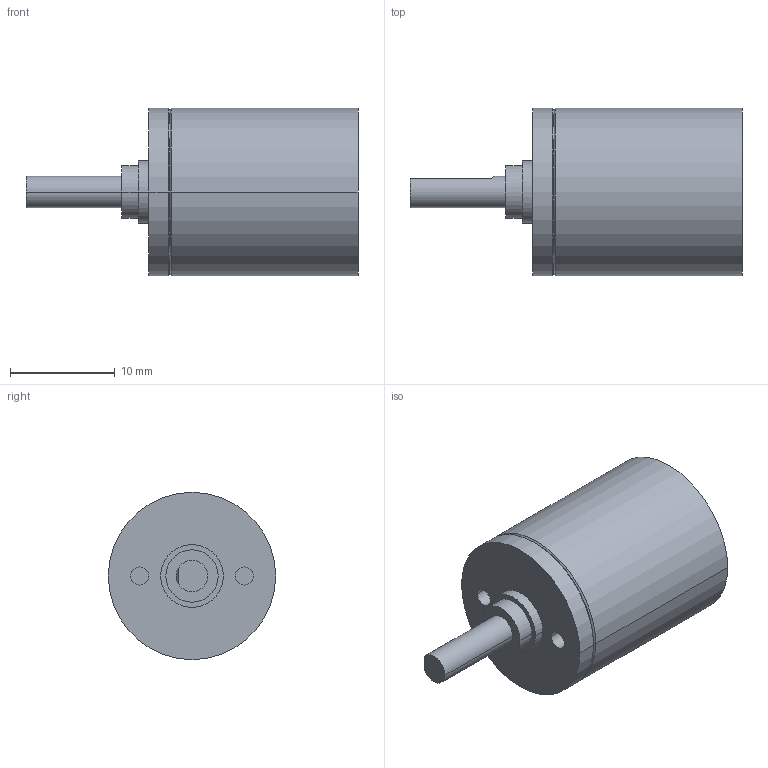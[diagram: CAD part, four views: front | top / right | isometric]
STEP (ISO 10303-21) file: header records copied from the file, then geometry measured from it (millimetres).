
FILE_DESCRIPTION((''),'2;1');
FILE_NAME('1681860','2016-10-04T',('mmagvisi'),(''),'CREO PARAMETRIC BY PTC INC, 2016050','CREO PARAMETRIC BY PTC INC, 2016050','');
FILE_SCHEMA(('CONFIG_CONTROL_DESIGN'));
Length unit declared in the file: millimetre
Products named in the file (1): 1681860
Bounding box: 31.75 x 16 x 16 mm (x, y, z)
Volume: 3920.8 mm3; surface area: 1635.2 mm2
Topology: 1 solids, 1 shells, 30 faces, 60 edges, 38 vertices
Faces by surface type: cylinder 16, plane 10, cone 4
Entity records: 895 total; most frequent: DIRECTION 152, CARTESIAN_POINT 133, ORIENTED_EDGE 120, AXIS2_PLACEMENT_3D 64, EDGE_CURVE 60, COLOUR_RGB 58, VERTEX_POINT 38, EDGE_LOOP 36
